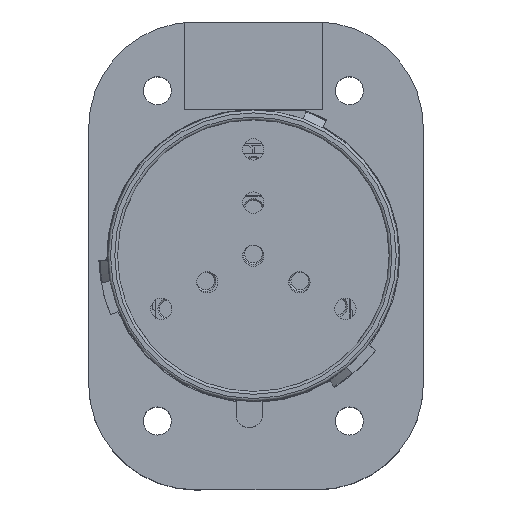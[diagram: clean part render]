
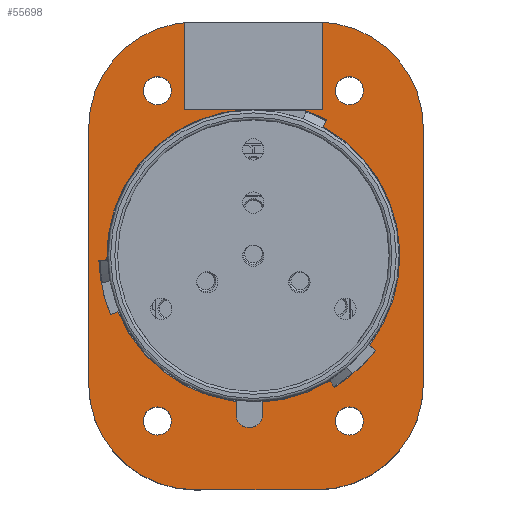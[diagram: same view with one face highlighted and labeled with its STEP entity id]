
A CAD part, top view. The second image highlights one B-rep face of the part: STEP entity #55698.
In plain terms, the highlighted planar face has unit normal (0, 0, 1).
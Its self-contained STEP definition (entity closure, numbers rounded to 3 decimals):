
#616=FACE_BOUND('',#9760,.T.);
#617=FACE_BOUND('',#9761,.T.);
#618=FACE_BOUND('',#9762,.T.);
#619=FACE_BOUND('',#9763,.T.);
#620=FACE_BOUND('',#9764,.T.);
#3315=PLANE('',#60912);
#6374=FACE_OUTER_BOUND('',#9759,.T.);
#9759=EDGE_LOOP('',(#51661,#51662,#51663,#51664,#51665,#51666,#51667,#51668));
#9760=EDGE_LOOP('',(#51669));
#9761=EDGE_LOOP('',(#51670));
#9762=EDGE_LOOP('',(#51671));
#9763=EDGE_LOOP('',(#51672));
#9764=EDGE_LOOP('',(#51673,#51674,#51675,#51676,#51677,#51678,#51679,#51680,
#51681,#51682,#51683,#51684));
#11502=CIRCLE('',#60861,2.65);
#11504=CIRCLE('',#60864,2.65);
#11506=CIRCLE('',#60867,2.65);
#11508=CIRCLE('',#60870,2.65);
#11511=CIRCLE('',#60875,27.575);
#11513=CIRCLE('',#60879,29.075);
#11515=CIRCLE('',#60883,27.575);
#11517=CIRCLE('',#60887,29.075);
#11519=CIRCLE('',#60891,27.575);
#11521=CIRCLE('',#60895,29.075);
#11523=CIRCLE('',#60898,20.);
#11525=CIRCLE('',#60902,20.);
#11527=CIRCLE('',#60906,20.);
#11529=CIRCLE('',#60910,20.);
#17420=LINE('',#93374,#23352);
#17424=LINE('',#93386,#23356);
#17428=LINE('',#93398,#23360);
#17432=LINE('',#93410,#23364);
#17436=LINE('',#93422,#23368);
#17440=LINE('',#93434,#23372);
#17445=LINE('',#93452,#23377);
#17449=LINE('',#93464,#23381);
#17453=LINE('',#93476,#23385);
#17457=LINE('',#93486,#23389);
#23352=VECTOR('',#76403,10.);
#23356=VECTOR('',#76415,10.);
#23360=VECTOR('',#76427,10.);
#23364=VECTOR('',#76439,10.);
#23368=VECTOR('',#76451,10.);
#23372=VECTOR('',#76463,10.);
#23377=VECTOR('',#76482,10.);
#23381=VECTOR('',#76494,10.);
#23385=VECTOR('',#76506,10.);
#23389=VECTOR('',#76518,10.);
#28444=VERTEX_POINT('',#93344);
#28446=VERTEX_POINT('',#93350);
#28448=VERTEX_POINT('',#93356);
#28450=VERTEX_POINT('',#93362);
#28454=VERTEX_POINT('',#93371);
#28455=VERTEX_POINT('',#93373);
#28457=VERTEX_POINT('',#93379);
#28459=VERTEX_POINT('',#93385);
#28461=VERTEX_POINT('',#93391);
#28463=VERTEX_POINT('',#93397);
#28465=VERTEX_POINT('',#93403);
#28467=VERTEX_POINT('',#93409);
#28469=VERTEX_POINT('',#93415);
#28471=VERTEX_POINT('',#93421);
#28473=VERTEX_POINT('',#93427);
#28475=VERTEX_POINT('',#93433);
#28478=VERTEX_POINT('',#93443);
#28479=VERTEX_POINT('',#93445);
#28481=VERTEX_POINT('',#93451);
#28483=VERTEX_POINT('',#93457);
#28485=VERTEX_POINT('',#93463);
#28487=VERTEX_POINT('',#93469);
#28489=VERTEX_POINT('',#93475);
#28491=VERTEX_POINT('',#93481);
#36163=EDGE_CURVE('',#28444,#28444,#11502,.T.);
#36166=EDGE_CURVE('',#28446,#28446,#11504,.T.);
#36169=EDGE_CURVE('',#28448,#28448,#11506,.T.);
#36172=EDGE_CURVE('',#28450,#28450,#11508,.T.);
#36177=EDGE_CURVE('',#28455,#28454,#17420,.T.);
#36180=EDGE_CURVE('',#28457,#28455,#11511,.T.);
#36183=EDGE_CURVE('',#28459,#28457,#17424,.T.);
#36186=EDGE_CURVE('',#28461,#28459,#11513,.T.);
#36189=EDGE_CURVE('',#28463,#28461,#17428,.T.);
#36192=EDGE_CURVE('',#28465,#28463,#11515,.T.);
#36195=EDGE_CURVE('',#28467,#28465,#17432,.T.);
#36198=EDGE_CURVE('',#28469,#28467,#11517,.T.);
#36201=EDGE_CURVE('',#28471,#28469,#17436,.T.);
#36204=EDGE_CURVE('',#28473,#28471,#11519,.T.);
#36207=EDGE_CURVE('',#28475,#28473,#17440,.T.);
#36210=EDGE_CURVE('',#28454,#28475,#11521,.T.);
#36213=EDGE_CURVE('',#28479,#28478,#11523,.T.);
#36216=EDGE_CURVE('',#28481,#28479,#17445,.T.);
#36219=EDGE_CURVE('',#28483,#28481,#11525,.T.);
#36222=EDGE_CURVE('',#28485,#28483,#17449,.T.);
#36225=EDGE_CURVE('',#28487,#28485,#11527,.T.);
#36228=EDGE_CURVE('',#28489,#28487,#17453,.T.);
#36231=EDGE_CURVE('',#28491,#28489,#11529,.T.);
#36234=EDGE_CURVE('',#28478,#28491,#17457,.T.);
#51661=ORIENTED_EDGE('',*,*,#36234,.T.);
#51662=ORIENTED_EDGE('',*,*,#36231,.T.);
#51663=ORIENTED_EDGE('',*,*,#36228,.T.);
#51664=ORIENTED_EDGE('',*,*,#36225,.T.);
#51665=ORIENTED_EDGE('',*,*,#36222,.T.);
#51666=ORIENTED_EDGE('',*,*,#36219,.T.);
#51667=ORIENTED_EDGE('',*,*,#36216,.T.);
#51668=ORIENTED_EDGE('',*,*,#36213,.T.);
#51669=ORIENTED_EDGE('',*,*,#36163,.T.);
#51670=ORIENTED_EDGE('',*,*,#36166,.T.);
#51671=ORIENTED_EDGE('',*,*,#36169,.T.);
#51672=ORIENTED_EDGE('',*,*,#36172,.T.);
#51673=ORIENTED_EDGE('',*,*,#36210,.T.);
#51674=ORIENTED_EDGE('',*,*,#36207,.T.);
#51675=ORIENTED_EDGE('',*,*,#36204,.T.);
#51676=ORIENTED_EDGE('',*,*,#36201,.T.);
#51677=ORIENTED_EDGE('',*,*,#36198,.T.);
#51678=ORIENTED_EDGE('',*,*,#36195,.T.);
#51679=ORIENTED_EDGE('',*,*,#36192,.T.);
#51680=ORIENTED_EDGE('',*,*,#36189,.T.);
#51681=ORIENTED_EDGE('',*,*,#36186,.T.);
#51682=ORIENTED_EDGE('',*,*,#36183,.T.);
#51683=ORIENTED_EDGE('',*,*,#36180,.T.);
#51684=ORIENTED_EDGE('',*,*,#36177,.T.);
#55698=ADVANCED_FACE('',(#6374,#616,#617,#618,#619,#620),#3315,.T.);
#60861=AXIS2_PLACEMENT_3D('',#93345,#76373,#76374);
#60864=AXIS2_PLACEMENT_3D('',#93351,#76380,#76381);
#60867=AXIS2_PLACEMENT_3D('',#93357,#76387,#76388);
#60870=AXIS2_PLACEMENT_3D('',#93363,#76394,#76395);
#60875=AXIS2_PLACEMENT_3D('',#93380,#76409,#76410);
#60879=AXIS2_PLACEMENT_3D('',#93392,#76421,#76422);
#60883=AXIS2_PLACEMENT_3D('',#93404,#76433,#76434);
#60887=AXIS2_PLACEMENT_3D('',#93416,#76445,#76446);
#60891=AXIS2_PLACEMENT_3D('',#93428,#76457,#76458);
#60895=AXIS2_PLACEMENT_3D('',#93438,#76469,#76470);
#60898=AXIS2_PLACEMENT_3D('',#93446,#76476,#76477);
#60902=AXIS2_PLACEMENT_3D('',#93458,#76488,#76489);
#60906=AXIS2_PLACEMENT_3D('',#93470,#76500,#76501);
#60910=AXIS2_PLACEMENT_3D('',#93482,#76512,#76513);
#60912=AXIS2_PLACEMENT_3D('',#93487,#76519,#76520);
#76373=DIRECTION('center_axis',(0.,0.,-1.));
#76374=DIRECTION('ref_axis',(1.,0.,0.));
#76380=DIRECTION('center_axis',(0.,0.,-1.));
#76381=DIRECTION('ref_axis',(1.,0.,0.));
#76387=DIRECTION('center_axis',(0.,0.,-1.));
#76388=DIRECTION('ref_axis',(1.,0.,0.));
#76394=DIRECTION('center_axis',(0.,0.,-1.));
#76395=DIRECTION('ref_axis',(1.,0.,0.));
#76403=DIRECTION('',(0.788,-0.616,0.));
#76409=DIRECTION('center_axis',(0.,0.,-1.));
#76410=DIRECTION('ref_axis',(0.792,-0.61,0.));
#76415=DIRECTION('',(-0.469,-0.883,0.));
#76421=DIRECTION('center_axis',(0.,0.,-1.));
#76422=DIRECTION('ref_axis',(0.476,0.88,0.));
#76427=DIRECTION('',(0.139,0.99,0.));
#76433=DIRECTION('center_axis',(0.,0.,-1.));
#76434=DIRECTION('ref_axis',(0.132,0.991,0.));
#76439=DIRECTION('',(0.999,0.035,0.));
#76445=DIRECTION('center_axis',(0.,0.,-1.));
#76446=DIRECTION('ref_axis',(-1.,-0.028,0.));
#76451=DIRECTION('',(-0.927,-0.375,0.));
#76457=DIRECTION('center_axis',(0.,0.,-1.));
#76458=DIRECTION('ref_axis',(-0.924,-0.381,0.));
#76463=DIRECTION('',(-0.53,0.848,0.));
#76469=DIRECTION('center_axis',(0.,0.,-1.));
#76470=DIRECTION('ref_axis',(0.524,-0.852,0.));
#76476=DIRECTION('center_axis',(0.,0.,1.));
#76477=DIRECTION('ref_axis',(-1.,0.,0.));
#76482=DIRECTION('',(0.,-1.,0.));
#76488=DIRECTION('center_axis',(0.,0.,1.));
#76489=DIRECTION('ref_axis',(0.,1.,0.));
#76494=DIRECTION('',(-1.,0.,0.));
#76500=DIRECTION('center_axis',(0.,0.,1.));
#76501=DIRECTION('ref_axis',(1.,0.,0.));
#76506=DIRECTION('',(0.,1.,0.));
#76512=DIRECTION('center_axis',(0.,0.,1.));
#76513=DIRECTION('ref_axis',(0.,-1.,0.));
#76518=DIRECTION('',(1.,0.,0.));
#76519=DIRECTION('center_axis',(0.,0.,1.));
#76520=DIRECTION('ref_axis',(-1.,0.,0.));
#93344=CARTESIAN_POINT('',(-20.721,31.071,25.));
#93345=CARTESIAN_POINT('Origin',(-18.071,31.071,25.));
#93350=CARTESIAN_POINT('',(-20.721,-31.071,25.));
#93351=CARTESIAN_POINT('Origin',(-18.071,-31.071,25.));
#93356=CARTESIAN_POINT('',(15.421,-31.071,25.));
#93357=CARTESIAN_POINT('Origin',(18.071,-31.071,25.));
#93362=CARTESIAN_POINT('',(15.421,31.071,25.));
#93363=CARTESIAN_POINT('Origin',(18.071,31.071,25.));
#93371=CARTESIAN_POINT('',(23.034,-17.742,25.));
#93373=CARTESIAN_POINT('',(21.852,-16.819,25.));
#93374=CARTESIAN_POINT('',(21.852,-16.819,25.));
#93379=CARTESIAN_POINT('',(13.122,24.253,25.));
#93380=CARTESIAN_POINT('Origin',(0.,0.,
25.));
#93385=CARTESIAN_POINT('',(13.826,25.577,25.));
#93386=CARTESIAN_POINT('',(13.826,25.577,25.));
#93391=CARTESIAN_POINT('',(3.848,28.819,25.));
#93392=CARTESIAN_POINT('Origin',(0.,0.,
25.));
#93397=CARTESIAN_POINT('',(3.64,27.334,25.));
#93398=CARTESIAN_POINT('',(3.64,27.334,25.));
#93403=CARTESIAN_POINT('',(-27.564,-0.762,25.));
#93404=CARTESIAN_POINT('Origin',(0.,0.,25.));
#93409=CARTESIAN_POINT('',(-29.064,-0.815,25.));
#93410=CARTESIAN_POINT('',(-29.064,-0.815,25.));
#93415=CARTESIAN_POINT('',(-26.882,-11.077,25.));
#93416=CARTESIAN_POINT('Origin',(0.,0.,
25.));
#93421=CARTESIAN_POINT('',(-25.492,-10.515,25.));
#93422=CARTESIAN_POINT('',(-25.492,-10.515,25.));
#93427=CARTESIAN_POINT('',(14.443,-23.49,25.));
#93428=CARTESIAN_POINT('Origin',(0.,0.,
25.));
#93433=CARTESIAN_POINT('',(15.237,-24.762,25.));
#93434=CARTESIAN_POINT('',(15.237,-24.762,25.));
#93438=CARTESIAN_POINT('Origin',(0.,0.,
25.));
#93443=CARTESIAN_POINT('',(-11.,-44.,25.));
#93445=CARTESIAN_POINT('',(-31.,-24.,25.));
#93446=CARTESIAN_POINT('Origin',(-11.,-24.,25.));
#93451=CARTESIAN_POINT('',(-31.,24.,25.));
#93452=CARTESIAN_POINT('',(-31.,24.,25.));
#93457=CARTESIAN_POINT('',(-11.,44.,25.));
#93458=CARTESIAN_POINT('Origin',(-11.,24.,25.));
#93463=CARTESIAN_POINT('',(12.,44.,25.));
#93464=CARTESIAN_POINT('',(12.,44.,25.));
#93469=CARTESIAN_POINT('',(32.,24.,25.));
#93470=CARTESIAN_POINT('Origin',(12.,24.,25.));
#93475=CARTESIAN_POINT('',(32.,-24.,25.));
#93476=CARTESIAN_POINT('',(32.,-24.,25.));
#93481=CARTESIAN_POINT('',(12.,-44.,25.));
#93482=CARTESIAN_POINT('Origin',(12.,-24.,25.));
#93486=CARTESIAN_POINT('',(-11.,-44.,25.));
#93487=CARTESIAN_POINT('Origin',(0.5,0.,
25.));
